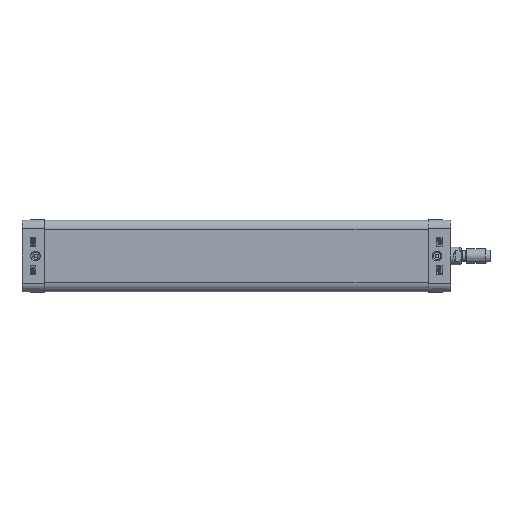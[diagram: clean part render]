
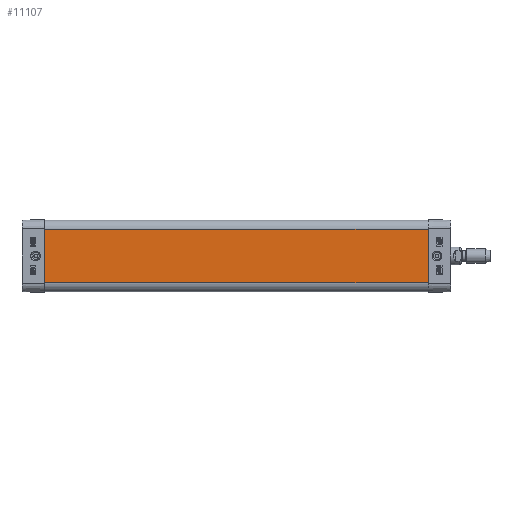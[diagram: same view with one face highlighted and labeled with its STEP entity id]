
A CAD part, left-side view. The second image highlights one B-rep face of the part: STEP entity #11107.
In plain terms, the highlighted planar face has unit normal (-1, 0, 0).
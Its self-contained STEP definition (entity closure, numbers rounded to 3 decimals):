
#8889=CARTESIAN_POINT('',(-20.,-214.0,15.0));
#8890=VERTEX_POINT('',#8889);
#8898=CARTESIAN_POINT('',(-20.,-214.0,-15.));
#8899=VERTEX_POINT('',#8898);
#8900=CARTESIAN_POINT('',(-20.,-214.0,-15.));
#8901=DIRECTION('',(0.0,0.0,1.0));
#8902=VECTOR('',#8901,30.);
#8903=LINE('',#8900,#8902);
#8904=EDGE_CURVE('',#8899,#8890,#8903,.T.);
#10035=CARTESIAN_POINT('',(-20.,0.0,15.0));
#10036=VERTEX_POINT('',#10035);
#10044=CARTESIAN_POINT('',(-20.,0.0,15.0));
#10045=DIRECTION('',(0.0,-1.0,0.0));
#10046=VECTOR('',#10045,214.0);
#10047=LINE('',#10044,#10046);
#10048=EDGE_CURVE('',#10036,#8890,#10047,.T.);
#11072=CARTESIAN_POINT('',(-20.,0.0,-15.));
#11073=VERTEX_POINT('',#11072);
#11074=CARTESIAN_POINT('',(-20.,0.0,-15.));
#11075=DIRECTION('',(0.0,-1.0,0.0));
#11076=VECTOR('',#11075,214.0);
#11077=LINE('',#11074,#11076);
#11078=EDGE_CURVE('',#11073,#8899,#11077,.T.);
#11091=CARTESIAN_POINT('',(-20.,0.0,-15.));
#11092=DIRECTION('',(-1.0,0.0,0.0));
#11093=DIRECTION('',(0.0,0.0,1.0));
#11094=AXIS2_PLACEMENT_3D('',#11091,#11092,#11093);
#11095=PLANE('',#11094);
#11096=ORIENTED_EDGE('',*,*,#8904,.T.);
#11097=ORIENTED_EDGE('',*,*,#10048,.F.);
#11098=CARTESIAN_POINT('',(-20.,0.0,-15.));
#11099=DIRECTION('',(0.0,0.0,1.0));
#11100=VECTOR('',#11099,30.);
#11101=LINE('',#11098,#11100);
#11102=EDGE_CURVE('',#11073,#10036,#11101,.T.);
#11103=ORIENTED_EDGE('',*,*,#11102,.F.);
#11104=ORIENTED_EDGE('',*,*,#11078,.T.);
#11105=EDGE_LOOP('',(#11096,#11097,#11103,#11104));
#11106=FACE_OUTER_BOUND('',#11105,.T.);
#11107=ADVANCED_FACE('',(#11106),#11095,.T.);
